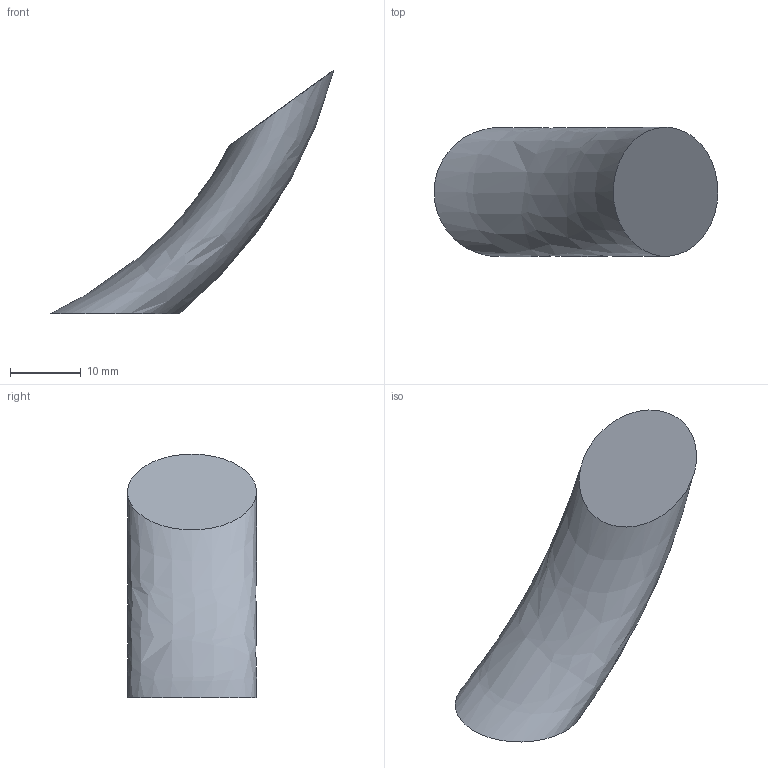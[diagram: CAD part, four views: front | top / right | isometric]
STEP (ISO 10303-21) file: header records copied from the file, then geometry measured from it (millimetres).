
FILE_DESCRIPTION(('Open CASCADE Model'),'2;1');
FILE_NAME('Open CASCADE Shape Model','2026-10-26T07:39:58',('Author'),( 'Open CASCADE'),'Open CASCADE STEP processor 7.9','Open CASCADE 7.9' ,'Unknown');
FILE_SCHEMA(('AUTOMOTIVE_DESIGN { 1 0 10303 214 1 1 1 1 }'));
Length unit declared in the file: millimetre
Products named in the file (1): Open CASCADE STEP translator 7.9 1
Bounding box: 40 x 18.2 x 34.36 mm (x, y, z)
Volume: 5360.4 mm3; surface area: 2241.4 mm2
Topology: 1 solids, 1 shells, 3 faces, 3 edges, 2 vertices
Faces by surface type: plane 2, bspline 1
Entity records: 173 total; most frequent: CARTESIAN_POINT 101, DIRECTION 10, ORIENTED_EDGE 6, PCURVE 6, DEFINITIONAL_REPRESENTATION 6, LINE 4, VECTOR 4, AXIS2_PLACEMENT_3D 3
